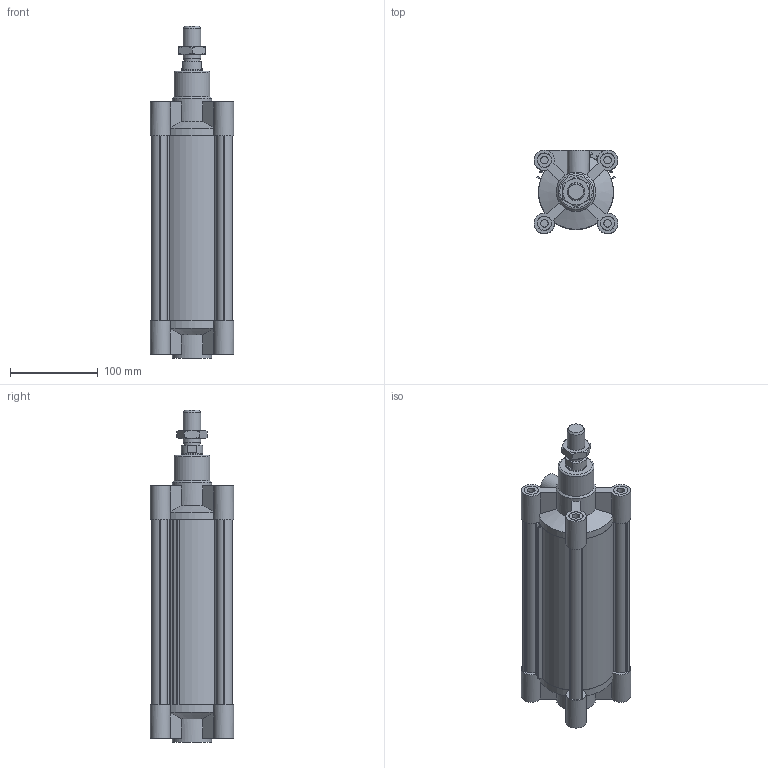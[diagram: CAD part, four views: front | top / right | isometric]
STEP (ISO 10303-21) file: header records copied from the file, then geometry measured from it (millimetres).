
FILE_DESCRIPTION((''),'2;1');
FILE_NAME('I:\Area Tecnica\Disegni\VARIE-3D\Componenti\ECOLIGHT\139#.##_0000_01\stp\139#_80_0160_01.iam.stp','2012-01-28T08:03:01',(''),(''),'Autodesk Inventor 2012','Autodesk Inventor 2012','');
FILE_SCHEMA(('AUTOMOTIVE_DESIGN { 1 0 10303 214 1 1 1 1 }'));
Length unit declared in the file: millimetre
Products named in the file (6): 139#_80_0160_01; CPL080_004-160; CPL080-001-01; CPL080-002-01; CPL_80_0160; 1320_80_18F
Assembly tree (5 placements, depth 2):
  139#_80_0160_01
    CPL080_004-160
    CPL080-001-01
    CPL080-002-01
    CPL_80_0160
    1320_80_18F
Bounding box: 95 x 95 x 378.5 mm (x, y, z)
Volume: 1123044.2 mm3; surface area: 319200.4 mm2
Topology: 5 solids, 5 shells, 264 faces, 648 edges, 426 vertices
Faces by surface type: plane 154, cylinder 83, cone 26, torus 1
Full cylindrical faces by diameter (mm): 8.5 x8, 12 x2, 15.2 x2, 16 x8, 16.5 x8, 18 x1, 18.5 x1, 20 x1, 24.5 x1, 25 x2, 41 x1, 45 x2, 80 x4
Entity records: 7874 total; most frequent: CARTESIAN_POINT 1483, DIRECTION 1288, ORIENTED_EDGE 1186, EDGE_CURVE 593, AXIS2_PLACEMENT_3D 476, VERTEX_POINT 419, EDGE_LOOP 358, VECTOR 336
